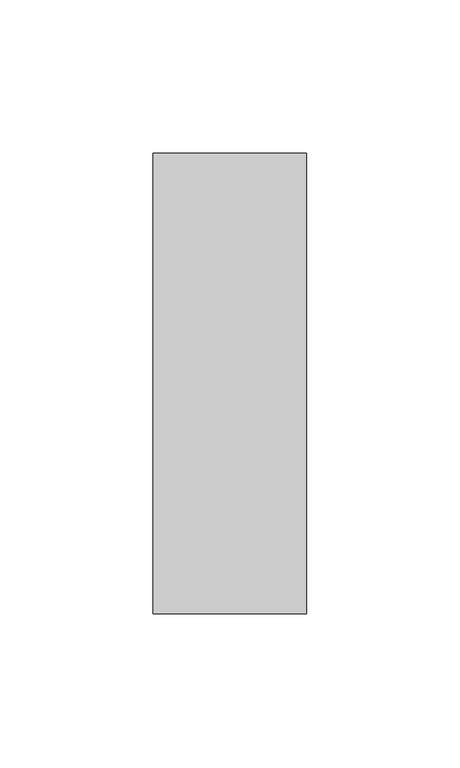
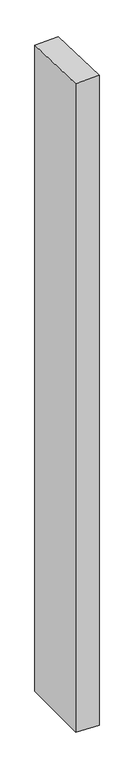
"""IFC4 building model written with IfcOpenShell, lengths in millimetres: member geometry, Прямоугольный импост : 50 x 150 мм."""

from ifc_helpers import new_model, si_unit, origin, place, context, project, spatial, faceted_brep, source, transform, mapped, element, save


def member_7c8e9cc2(model_context):
    return source(origin(), model_context, "Body", "Brep", [
        faceted_brep([(-25.0, 75.0, -2.7607303), (25.0, 75.0, -1.3480705), (25.0, 75.0, -1458.8621136), (-25.0, 75.0, -1457.3505792), (-25.0, -75.0, 1.3480705), (-25.0, -75.0, -1459.5069467), (25.0, -75.0, 2.7607303), (25.0, -75.0, -1461.0184811)], [[[0, 1, 2, 3]], [[4, 0, 3, 5]], [[6, 4, 5, 7]], [[1, 6, 7, 2]], [[1, 0, 4, 6]], [[2, 7, 5, 3]]]),
    ])


if __name__ == "__main__":
    model = new_model("IFC4")
    model_context = context("Model", 3, world=origin())
    ifc_project = project(units=[si_unit("LENGTHUNIT", "METRE", prefix="MILLI")], contexts=[model_context])
    site = spatial("IfcSite", under=ifc_project)
    building = spatial("IfcBuilding", under=site)
    placement = place(None, origin())
    member_shape = member_7c8e9cc2(model_context)
    element("IfcMember", 1, ObjectType="Прямоугольный импост : 50 x 150 мм", at=placement, inside=building, context=model_context, shape_type="MappedRepresentation", body=[
        mapped(member_shape, transform((0.0, 0.0, 0.0), x_axis=(1.0, 0.0, 0.0), y_axis=(0.0, 1.0, 0.0), z_axis=(0.0, 0.0, 1.0))),
    ])
    save(model, "model.ifc")
